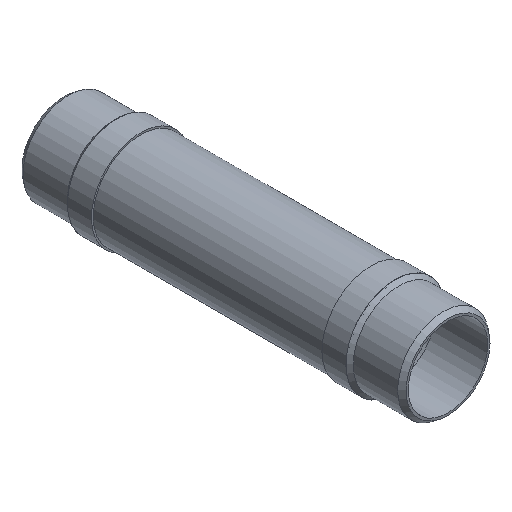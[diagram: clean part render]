
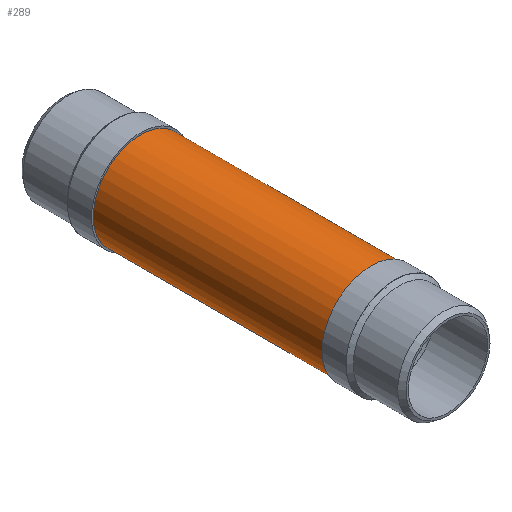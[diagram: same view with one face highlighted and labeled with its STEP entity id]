
A CAD part, isometric view. The second image highlights one B-rep face of the part: STEP entity #289.
In plain terms, the highlighted cylindrical face has radius 31.394 mm (diameter 62.789 mm), a full revolution.
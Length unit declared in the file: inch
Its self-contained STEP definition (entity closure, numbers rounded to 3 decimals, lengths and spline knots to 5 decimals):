
#34=FACE_BOUND('',#85,.T.);
#58=FACE_OUTER_BOUND('',#84,.T.);
#84=EDGE_LOOP('',(#204));
#85=EDGE_LOOP('',(#205));
#130=CIRCLE('',#321,1.236);
#131=CIRCLE('',#323,1.236);
#154=VERTEX_POINT('',#470);
#155=VERTEX_POINT('',#473);
#178=EDGE_CURVE('',#154,#154,#130,.T.);
#179=EDGE_CURVE('',#155,#155,#131,.T.);
#204=ORIENTED_EDGE('',*,*,#178,.T.);
#205=ORIENTED_EDGE('',*,*,#179,.T.);
#249=CYLINDRICAL_SURFACE('',#322,1.236);
#289=ADVANCED_FACE('',(#58,#34),#249,.T.);
#321=AXIS2_PLACEMENT_3D('',#471,#375,#376);
#322=AXIS2_PLACEMENT_3D('',#472,#377,#378);
#323=AXIS2_PLACEMENT_3D('',#474,#379,#380);
#375=DIRECTION('center_axis',(0.,1.,0.));
#376=DIRECTION('ref_axis',(-0.535,0.,0.845));
#377=DIRECTION('center_axis',(0.,1.,0.));
#378=DIRECTION('ref_axis',(-0.535,0.,0.845));
#379=DIRECTION('center_axis',(0.,-1.,0.));
#380=DIRECTION('ref_axis',(-0.535,0.,0.845));
#470=CARTESIAN_POINT('',(0.66146,1.375,-1.04411));
#471=CARTESIAN_POINT('Origin',(0.,1.375,0.));
#472=CARTESIAN_POINT('Origin',(0.,5.,0.));
#473=CARTESIAN_POINT('',(0.66146,8.625,-1.04411));
#474=CARTESIAN_POINT('Origin',(0.,8.625,0.));
